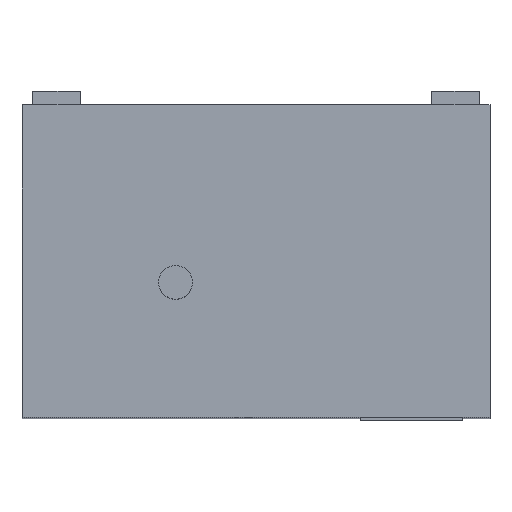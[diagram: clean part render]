
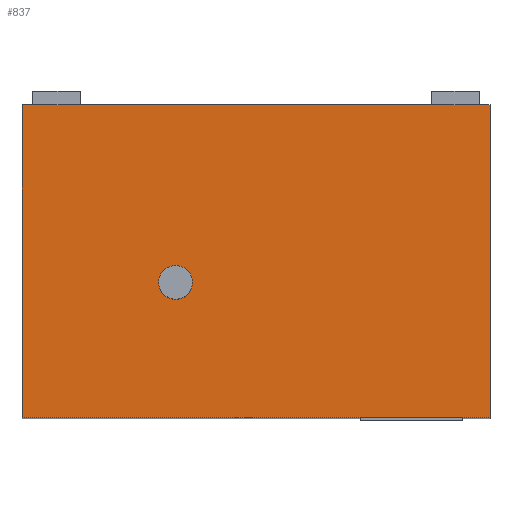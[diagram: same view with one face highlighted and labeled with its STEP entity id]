
A CAD part, top view. The second image highlights one B-rep face of the part: STEP entity #837.
In plain terms, the highlighted planar face has unit normal (0, 0, 1).
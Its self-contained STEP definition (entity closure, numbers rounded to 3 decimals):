
#41=CIRCLE('',#912,12.5);
#213=ORIENTED_EDGE('',*,*,#351,.T.);
#214=ORIENTED_EDGE('',*,*,#352,.F.);
#215=ORIENTED_EDGE('',*,*,#353,.F.);
#216=ORIENTED_EDGE('',*,*,#344,.F.);
#217=ORIENTED_EDGE('',*,*,#324,.F.);
#218=ORIENTED_EDGE('',*,*,#343,.F.);
#219=ORIENTED_EDGE('',*,*,#318,.F.);
#220=ORIENTED_EDGE('',*,*,#342,.F.);
#221=ORIENTED_EDGE('',*,*,#354,.F.);
#318=EDGE_CURVE('',#407,#405,#493,.T.);
#324=EDGE_CURVE('',#410,#412,#497,.T.);
#342=EDGE_CURVE('',#422,#407,#514,.T.);
#343=EDGE_CURVE('',#405,#410,#515,.T.);
#344=EDGE_CURVE('',#412,#423,#516,.T.);
#351=EDGE_CURVE('',#429,#429,#41,.T.);
#352=EDGE_CURVE('',#430,#431,#519,.T.);
#353=EDGE_CURVE('',#423,#430,#520,.T.);
#354=EDGE_CURVE('',#431,#422,#521,.T.);
#405=VERTEX_POINT('',#1271);
#407=VERTEX_POINT('',#1279);
#410=VERTEX_POINT('',#1290);
#412=VERTEX_POINT('',#1293);
#422=VERTEX_POINT('',#1327);
#423=VERTEX_POINT('',#1331);
#429=VERTEX_POINT('',#1349);
#430=VERTEX_POINT('',#1351);
#431=VERTEX_POINT('',#1352);
#493=LINE('',#1278,#581);
#497=LINE('',#1292,#585);
#514=LINE('',#1328,#602);
#515=LINE('',#1329,#603);
#516=LINE('',#1330,#604);
#519=LINE('',#1350,#607);
#520=LINE('',#1353,#608);
#521=LINE('',#1354,#609);
#581=VECTOR('',#1042,1000.);
#585=VECTOR('',#1056,1000.);
#602=VECTOR('',#1089,1000.);
#603=VECTOR('',#1090,1000.);
#604=VECTOR('',#1091,1000.);
#607=VECTOR('',#1114,1000.);
#608=VECTOR('',#1115,1000.);
#609=VECTOR('',#1116,1000.);
#667=EDGE_LOOP('',(#213));
#668=EDGE_LOOP('',(#214,#215,#216,#217,#218,#219,#220,#221));
#739=FACE_BOUND('',#667,.T.);
#740=FACE_BOUND('',#668,.T.);
#791=PLANE('',#911);
#837=ADVANCED_FACE('',(#739,#740),#791,.T.);
#911=AXIS2_PLACEMENT_3D('',#1347,#1110,#1111);
#912=AXIS2_PLACEMENT_3D('',#1348,#1112,#1113);
#1042=DIRECTION('',(1.,0.,0.));
#1056=DIRECTION('',(1.,0.,0.));
#1089=DIRECTION('',(1.,0.,0.));
#1090=DIRECTION('',(1.,0.,0.));
#1091=DIRECTION('',(1.,0.,0.));
#1110=DIRECTION('',(0.,0.,1.));
#1111=DIRECTION('',(1.,0.,0.));
#1112=DIRECTION('',(0.,0.,-1.));
#1113=DIRECTION('',(1.,0.,0.));
#1114=DIRECTION('',(-1.,0.,0.));
#1115=DIRECTION('',(0.,-1.,0.));
#1116=DIRECTION('',(0.,1.,0.));
#1271=CARTESIAN_POINT('',(-130.,115.,514.));
#1278=CARTESIAN_POINT('',(0.,115.,514.));
#1279=CARTESIAN_POINT('',(-165.,115.,514.));
#1290=CARTESIAN_POINT('',(130.,115.,514.));
#1292=CARTESIAN_POINT('',(0.,115.,514.));
#1293=CARTESIAN_POINT('',(165.,115.,514.));
#1327=CARTESIAN_POINT('',(-173.,115.,514.));
#1328=CARTESIAN_POINT('',(0.,115.,514.));
#1329=CARTESIAN_POINT('',(0.,115.,514.));
#1330=CARTESIAN_POINT('',(0.,115.,514.));
#1331=CARTESIAN_POINT('',(173.,115.,514.));
#1347=CARTESIAN_POINT('',(0.,-0.5,514.));
#1348=CARTESIAN_POINT('',(-59.441,-16.242,514.));
#1349=CARTESIAN_POINT('',(-46.941,-16.242,514.));
#1350=CARTESIAN_POINT('',(0.,-116.,514.));
#1351=CARTESIAN_POINT('',(173.,-116.,514.));
#1352=CARTESIAN_POINT('',(-173.,-116.,514.));
#1353=CARTESIAN_POINT('',(173.,-0.5,514.));
#1354=CARTESIAN_POINT('',(-173.,-0.5,514.));
